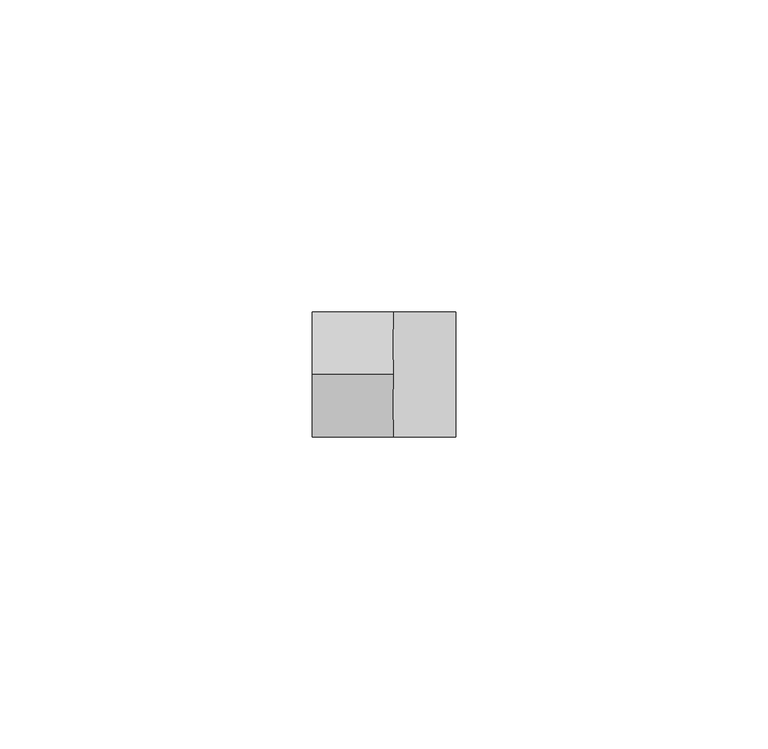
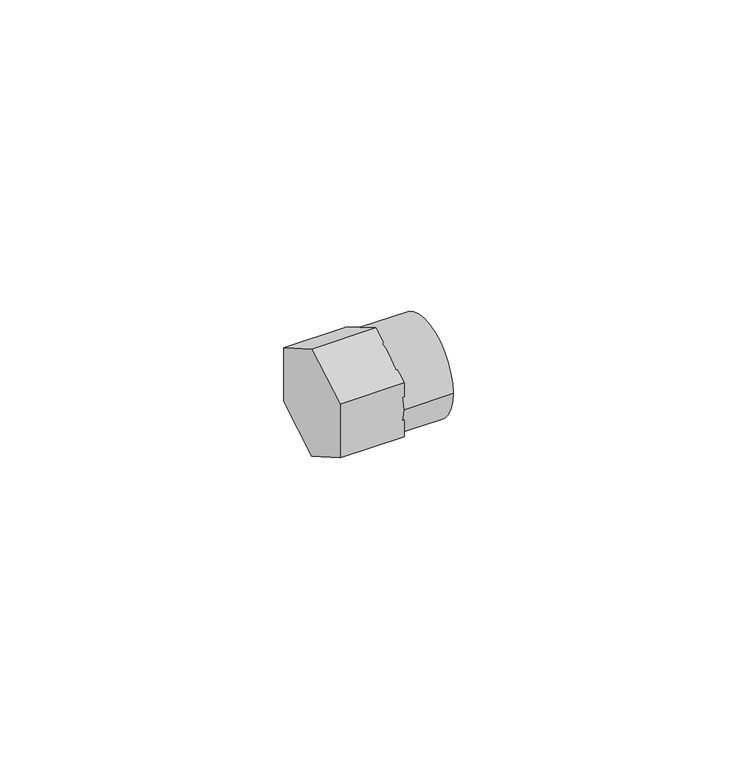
"""IFC4 building model written with IfcOpenShell, lengths in millimetres: pipe fitting geometry, Euroconus screwing for multilayer pipes : Euroconus screwing for multilayer pipes."""

from ifc_helpers import new_model, si_unit, frame, origin, place, context, project, spatial, circle_curve, source, transform, mapped, element, save
from ifc_brep_helpers import plane_surface, cylinder_surface, advanced_brep


def pipe_fitting_99dd75d1(model_context):
    return source(origin(), model_context, "Body", "AdvancedBrep", [
        advanced_brep(
        [(10.0, 10.0, 0.0), (10.0, -10.0, 0.0), (0.0, 10.0, 0.0), (0.0, 5.0, 8.660254), (0.0, -5.0, 8.660254), (0.0, -10.0, 0.0), (0.0, -5.0, -8.660254), (0.0, 5.0, -8.660254), (0.0, 10.0, -5.7735027), (0.0, 10.0, 5.7735027), (0.0, -10.0, 5.7735027), (0.0, -10.0, -5.7735027), (0.0, 0.0, 11.5470054), (0.0, 0.0, -11.5470054), (-13.0, 10.0, 5.7735027), (-13.0, 10.0, -5.7735027), (-13.0, 0.0, -11.5470054), (-13.0, -10.0, -5.7735027), (-13.0, -10.0, 5.7735027), (-13.0, 0.0, 11.5470054)],
        [
            (0, 1, circle_curve(frame((10.0, 0.0, 0.0), z_axis=(1.0, 0.0, 0.0), x_axis=(0.0, -1.0, 0.0)), 10.0)),
            (1, 0, circle_curve(frame((10.0, 0.0, 0.0), z_axis=(1.0, 0.0, 0.0), x_axis=(0.0, -1.0, 0.0)), 10.0)),
            (0, 2),
            (2, 3, circle_curve(frame((0.0, 0.0, 0.0), z_axis=(1.0, 0.0, 0.0), x_axis=(0.0, -1.0, 0.0)), 10.0)),
            (3, 4, circle_curve(frame((0.0, 0.0, 0.0), z_axis=(1.0, 0.0, 0.0), x_axis=(0.0, -1.0, 0.0)), 10.0)),
            (4, 5, circle_curve(frame((0.0, 0.0, 0.0), z_axis=(1.0, 0.0, 0.0), x_axis=(0.0, -1.0, 0.0)), 10.0)),
            (5, 1),
            (5, 6, circle_curve(frame((0.0, 0.0, 0.0), z_axis=(1.0, 0.0, 0.0), x_axis=(0.0, -1.0, 0.0)), 10.0)),
            (6, 7, circle_curve(frame((0.0, 0.0, 0.0), z_axis=(1.0, 0.0, 0.0), x_axis=(0.0, -1.0, 0.0)), 10.0)),
            (7, 2, circle_curve(frame((0.0, 0.0, 0.0), z_axis=(1.0, 0.0, 0.0), x_axis=(0.0, -1.0, 0.0)), 10.0)),
            (8, 2),
            (7, 8),
            (2, 9),
            (9, 3),
            (10, 5),
            (4, 10),
            (5, 11),
            (11, 6),
            (12, 4),
            (3, 12),
            (6, 13),
            (13, 7),
            (14, 15),
            (15, 16),
            (16, 17),
            (17, 18),
            (18, 19),
            (19, 14),
            (14, 9),
            (8, 15),
            (13, 16),
            (11, 17),
            (10, 18),
            (12, 19),
        ],
        [
            plane_surface(frame((10.0, 0.0, 0.0), z_axis=(1.0, 0.0, 0.0), x_axis=(0.0, 0.0, 1.0))),
            cylinder_surface(frame((10.0, 0.0, 0.0), z_axis=(1.0, 0.0, 0.0), x_axis=(0.0, -1.0, 0.0)), 10.0),
            plane_surface(frame((0.0, 0.0, 11.5470054), z_axis=(1.0, 0.0, 0.0), x_axis=(0.0, -0.8660254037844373, 0.5000000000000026))),
            plane_surface(frame((-13.0, 0.0, 11.5470054), z_axis=(-1.0, 0.0, 0.0), x_axis=(0.0, 0.8660254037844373, -0.5000000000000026))),
            plane_surface(frame((0.0, 10.0, -5.7735027), z_axis=(0.0, 1.0, 0.0), x_axis=(-1.0, 0.0, 0.0))),
            plane_surface(frame((0.0, 0.0, -11.5470054), z_axis=(0.0, 0.5000000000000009, -0.8660254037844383), x_axis=(-1.0, 0.0, 0.0))),
            plane_surface(frame((0.0, -10.0, -5.7735027), z_axis=(0.0, -0.5000000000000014, -0.8660254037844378), x_axis=(-1.0, 0.0, 0.0))),
            plane_surface(frame((0.0, -10.0, 5.7735027), z_axis=(0.0, -1.0, 0.0), x_axis=(-1.0, 0.0, 0.0))),
            plane_surface(frame((0.0, 0.0, 11.5470054), z_axis=(0.0, -0.5000000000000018, 0.8660254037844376), x_axis=(-1.0, 0.0, 0.0))),
            plane_surface(frame((0.0, 10.0, 5.7735027), z_axis=(0.0, 0.5000000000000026, 0.8660254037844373), x_axis=(-1.0, 0.0, 0.0))),
        ],
        [
            (0, [[1, 2]]),
            (1, [[-1, 3, 4, 5, 6, 7]]),
            (1, [[-2, -7, 8, 9, 10, -3]]),
            (2, [[11, -10, 12]]),
            (2, [[13, 14, -4]]),
            (2, [[15, -6, 16]]),
            (2, [[17, 18, -8]]),
            (2, [[19, -5, 20]]),
            (2, [[21, 22, -9]]),
            (3, [[23, 24, 25, 26, 27, 28]]),
            (4, [[-23, 29, -13, -11, 30]]),
            (5, [[-24, -30, -12, -22, 31]]),
            (6, [[-25, -31, -21, -18, 32]]),
            (7, [[-26, -32, -17, -15, 33]]),
            (8, [[-27, -33, -16, -19, 34]]),
            (9, [[-28, -34, -20, -14, -29]]),
        ],
    ),
    ])


if __name__ == "__main__":
    model = new_model("IFC4")
    model_context = context("Model", 3, world=origin())
    ifc_project = project(units=[si_unit("LENGTHUNIT", "METRE", prefix="MILLI")], contexts=[model_context])
    site = spatial("IfcSite", under=ifc_project)
    building = spatial("IfcBuilding", under=site)
    placement = place(None, origin())
    pipe_fitting_shape = pipe_fitting_99dd75d1(model_context)
    element("IfcPipeFitting", 1, ObjectType="Euroconus screwing for multilayer pipes : Euroconus screwing for multilayer pipes", at=placement, inside=building, context=model_context, shape_type="MappedRepresentation", body=[
        mapped(pipe_fitting_shape, transform((0.0, 0.0, 0.0), x_axis=(1.0, 0.0, 0.0), y_axis=(0.0, 1.0, 0.0), z_axis=(0.0, 0.0, 1.0))),
    ])
    save(model, "model.ifc")
